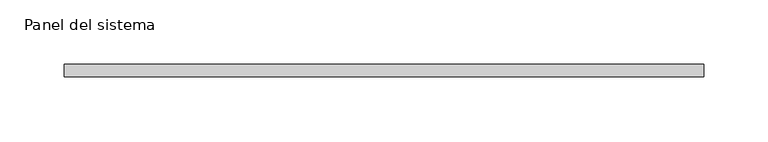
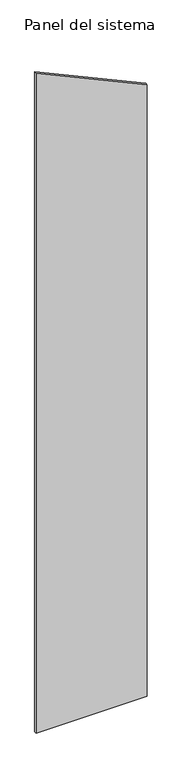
"""IFC4 building model written with IfcOpenShell, lengths in millimetres: plate geometry, Panel del sistema : HIANSA PANEL - PANELES DE CUBIERTA SIN TAPAJUNTA - EASY AGRO 5GR - Esp. 10mm."""

from ifc_helpers import new_model, si_unit, point, frame, frame_2d, origin, place, context, project, spatial, polyline, circle_curve, trimmed, segment, composite_curve, outline, extrude, source, transform, mapped, element, save


def panel_del_sistema_430cd98d(model_context):
    return source(origin(), model_context, "Body", "SweptSolid", [
        extrude(outline(composite_curve([segment(polyline([(0.0, -249.9999998), (0.0, 249.9999998), (2905.9777068, 249.9999998)]), True, "CONTINUOUS"), segment(trimmed(circle_curve(frame_2d((-233.0990651, -1500.0000002)), 3593.9258451), [point((2905.9777068, 249.9999998))], [point((3136.4414049, -249.9999998))], False, "CARTESIAN"), True, "CONTINUOUS"), segment(polyline([(3136.4414049, -249.9999998), (0.0, -249.9999998)]), True, "CONTINUOUS")], self_intersect=False)), frame((0.0, 0.0, 0.0), z_axis=(0.0, 1.0, 0.0), x_axis=(0.0, 0.0, 1.0)), (0.0, 0.0, 1.0), 10.0),
    ])


if __name__ == "__main__":
    model = new_model("IFC4")
    model_context = context("Model", 3, world=origin())
    ifc_project = project(units=[si_unit("LENGTHUNIT", "METRE", prefix="MILLI")], contexts=[model_context])
    site = spatial("IfcSite", under=ifc_project)
    building = spatial("IfcBuilding", under=site)
    placement = place(None, origin())
    panel_del_sistema_shape = panel_del_sistema_430cd98d(model_context)
    element("IfcPlate", 1, ObjectType="Panel del sistema : HIANSA PANEL - PANELES DE CUBIERTA SIN TAPAJUNTA - EASY AGRO 5GR - Esp. 10mm", at=placement, inside=building, context=model_context, shape_type="MappedRepresentation", body=[
        mapped(panel_del_sistema_shape, transform((0.0, 0.0, 0.0), x_axis=(1.0, 0.0, 0.0), y_axis=(0.0, 1.0, 0.0), z_axis=(0.0, 0.0, 1.0))),
    ])
    save(model, "model.ifc")
